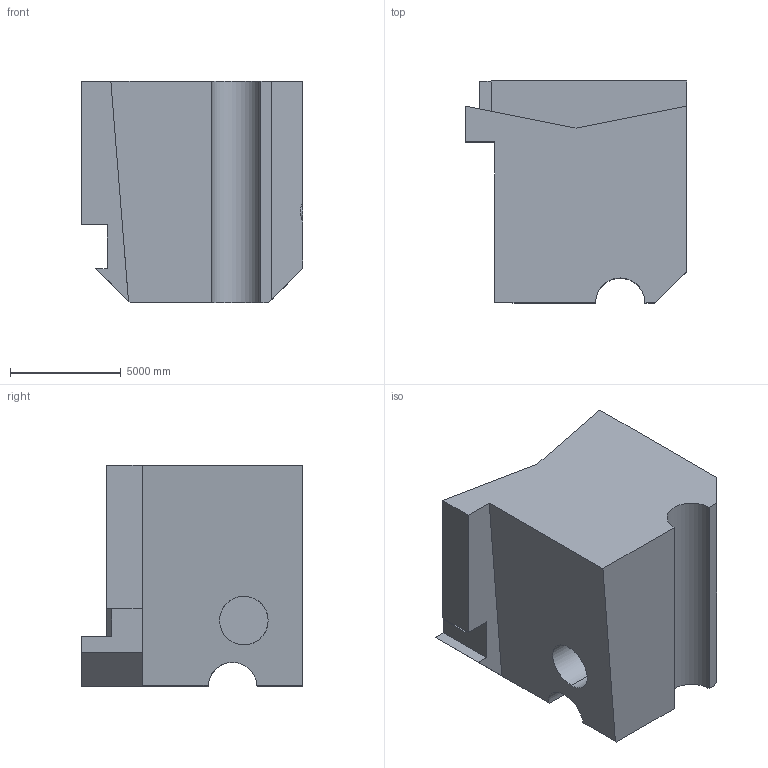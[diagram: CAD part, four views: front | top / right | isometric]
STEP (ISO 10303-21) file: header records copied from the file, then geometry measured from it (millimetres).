
FILE_DESCRIPTION (( 'STEP AP203' ), '1' );
FILE_NAME ('1923.STEP', '2022-08-23T09:31:31', ( 'user' ), ( '' ), 'SwSTEP 2.0', 'SolidWorks 2021', '' );
FILE_SCHEMA (( 'CONFIG_CONTROL_DESIGN' ));
Length unit declared in the file: centimetre
Products named in the file (1): 1923
Bounding box: 10000 x 10000 x 10000 mm (x, y, z)
Volume: 670379640643.4 mm3; surface area: 567258305.9 mm2
Topology: 1 solids, 1 shells, 31 faces, 81 edges, 54 vertices
Faces by surface type: plane 23, cylinder 8
Entity records: 1025 total; most frequent: CARTESIAN_POINT 188, ORIENTED_EDGE 162, DIRECTION 151, EDGE_CURVE 81, LINE 61, VECTOR 61, VERTEX_POINT 54, AXIS2_PLACEMENT_3D 45
